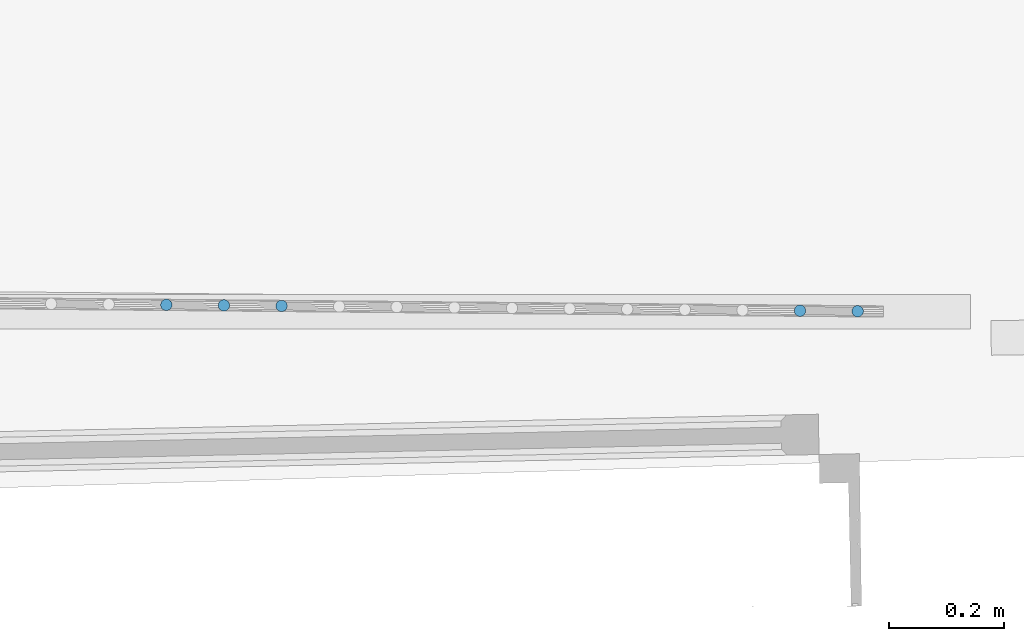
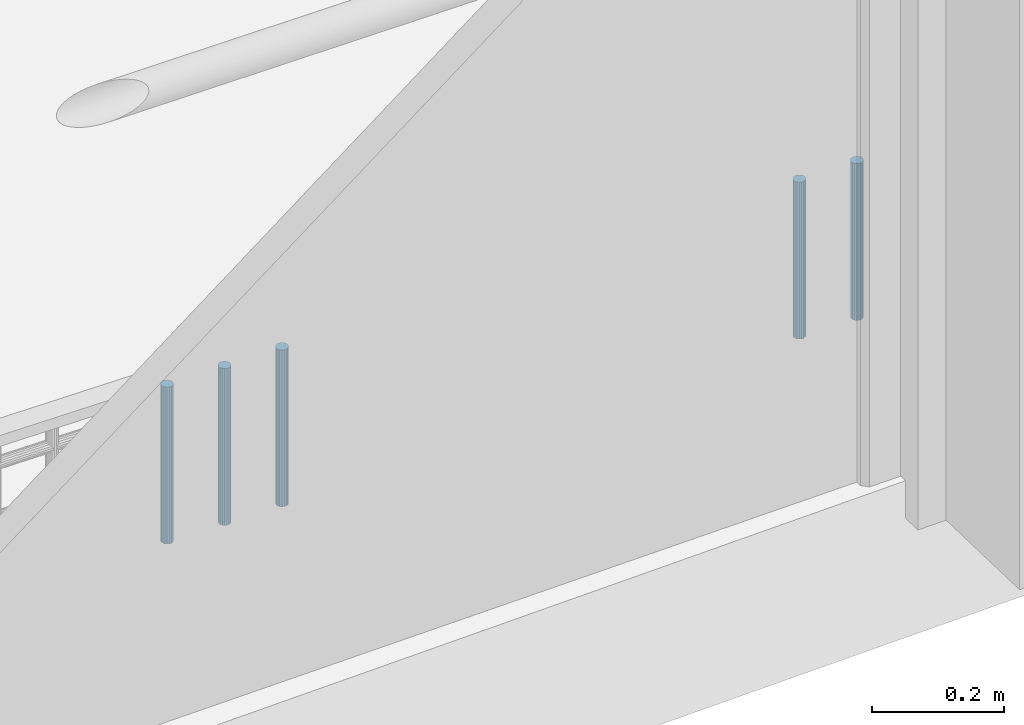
# One storey, part 24 of 66: 5 members, 1 element without a shape of its own.
"""IFC2X3 building model written with IfcOpenShell, lengths in centimetres."""

from ifc_helpers import new_model, entity, si_unit, converted_unit, direction, frame, origin, origin_with_axes, place, context, subcontext, project, spatial, faceted_brep, material, type_object, element, aggregate, save


model = new_model("IFC2X3")

# Units and contexts
model_context = context("Model", 3, precision=0.0001, world=origin(), true_north=direction((0.225632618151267, 0.974212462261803, 0.0)))
body_context = subcontext(model_context, "Body", "Model", "MODEL_VIEW")
ifc_project = project(units=[si_unit("LENGTHUNIT", "METRE", prefix="CENTI"), si_unit("AREAUNIT", "SQUARE_METRE", prefix="CENTI"), si_unit("VOLUMEUNIT", "CUBIC_METRE", prefix="CENTI"), converted_unit("PLANEANGLEUNIT", "DEGREE", entity("IfcRatioMeasure", 0.0174532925), si_unit("PLANEANGLEUNIT", "RADIAN"), dimensions=[0, 0, 0, 0, 0, 0, 0])], contexts=[model_context])

# Site, building, storey
site_placement = place(None, origin_with_axes())
site = spatial("IfcSite", under=ifc_project, at=site_placement, Name="Default Site", CompositionType="ELEMENT")
building_placement = place(site_placement, origin_with_axes())
building = spatial("IfcBuilding", under=site, at=building_placement, Name="Default Building", CompositionType="ELEMENT")
storey_placement = place(building_placement, frame((0.0, 0.0, 477.795358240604), z_axis=(0.0, 0.0, 1.0), x_axis=(1.0, 0.0, 0.0)))
storey = spatial("IfcBuildingStorey", under=building, at=storey_placement, Name="Niveau 1", CompositionType="ELEMENT", Elevation=477.795358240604)

# Assembly, members
building_element_proxy_type = type_object("IfcBuildingElementProxyType", Name="Type Object", PredefinedType="NOTDEFINED")
assembly_placement = place(storey_placement, frame((1081.09889200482, -848.13, 9.99999999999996), z_axis=(0.0, 0.0, 1.0), x_axis=(-0.999957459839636, 0.00922380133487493, 0.0)))
assembly = element("IfcElementAssembly", 1, at=assembly_placement, inside=storey, type_object=building_element_proxy_type, Name="Panneau 1702007", ObjectType="Precast panel", PredefinedType="USERDEFINED")
ifc_material = material(Name="Aluminium satiné")
member_1_placement = place(assembly_placement, frame((7.4396923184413, 0.342020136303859, 31.0000002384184), z_axis=(0.0, 0.0, 1.0), x_axis=(0.499998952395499, -0.866026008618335, 0.0)))
member_1 = element("IfcMember", 2, at=member_1_placement, material=ifc_material, Name="4294967039", context=body_context, shape_type="Brep", body=[
    faceted_brep([(-1.02418074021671e-12, -4.8988590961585e-13, 3.27515792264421e-13), (-0.347296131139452, -5.37070388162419e-13, 3.27515792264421e-13), (-0.673647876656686, -0.118782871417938, 3.27515792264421e-13), (-0.939692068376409, -0.342020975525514, 3.27515792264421e-13), (-1.1133397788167, -0.642788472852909, 3.27515792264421e-13), (-1.1736469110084, -0.984809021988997, 3.27515792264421e-13), (-1.11333900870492, -1.32682889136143, 3.27515792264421e-13), (-0.939690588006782, -1.62759638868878, 3.27515792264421e-13), (-0.673645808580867, -1.85083373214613, 3.27515792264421e-13), (-0.347293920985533, -1.96961580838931, 3.27515792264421e-13), (2.58268114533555e-06, -1.96961516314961, 3.27515792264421e-13), (0.326354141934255, -1.85083261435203, 3.27515792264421e-13), (0.592398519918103, -1.62759418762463, 3.27515792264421e-13), (0.766046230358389, -1.32682669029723, 3.27515792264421e-13), (0.826353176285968, -0.984806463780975, 3.27515792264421e-13), (0.766045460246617, -0.64278627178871, 3.27515792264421e-13), (0.592396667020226, -0.342019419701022, 3.27515792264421e-13), (0.32635226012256, -0.118781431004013, 3.27515792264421e-13), (0.32635226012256, -0.118781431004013, -29.0000002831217), (0.592396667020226, -0.342019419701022, -29.0000002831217), (0.766045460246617, -0.64278627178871, -29.0000002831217), (0.826353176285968, -0.984806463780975, -29.0000002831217), (0.766046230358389, -1.32682669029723, -29.0000002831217), (0.592398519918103, -1.62759418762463, -29.0000002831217), (0.326354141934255, -1.85083261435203, -29.0000002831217), (2.58268114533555e-06, -1.96961516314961, -29.0000002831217), (-0.347293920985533, -1.96961580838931, -29.0000002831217), (-0.673645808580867, -1.85083373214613, -29.0000002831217), (-0.939690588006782, -1.62759638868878, -29.0000002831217), (-1.11333900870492, -1.32682889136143, -29.0000002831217), (-1.1736469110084, -0.984809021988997, -29.0000002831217), (-1.1133397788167, -0.642788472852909, -29.0000002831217), (-0.939692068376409, -0.342020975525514, -29.0000002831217), (-0.673647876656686, -0.118782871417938, -29.0000002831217), (-0.347296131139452, -5.37070388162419e-13, -29.0000002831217), (-1.02418074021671e-12, -4.8988590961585e-13, -29.0000002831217), (0.592397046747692, -0.342018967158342, 3.27515792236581e-13), (0.592397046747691, -0.342018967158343, -29.0000002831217), (0.326352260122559, -0.118781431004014, -29.0000002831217), (0.766045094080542, -0.642786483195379, 3.27515792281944e-13), (0.766045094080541, -0.64278648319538, -29.0000002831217), (0.592396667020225, -0.342019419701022, -29.0000002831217), (0.826353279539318, -0.984806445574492, 3.27515792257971e-13), (0.826353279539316, -0.984806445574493, -29.0000002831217), (0.766045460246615, -0.642786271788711, -29.0000002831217), (0.76604621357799, -1.32682668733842, 3.27515792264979e-13), (0.766046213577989, -1.32682668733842, -29.0000002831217), (0.826353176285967, -0.984806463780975, -29.0000002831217), (0.592398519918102, -1.62759418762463, 3.27515792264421e-13), (0.592398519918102, -1.62759418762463, -29.0000002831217), (0.326354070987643, -1.85083252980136, 3.27515792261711e-13), (0.326354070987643, -1.85083252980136, -29.0000002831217), (2.62872091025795e-06, -1.96961528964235, 3.27515792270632e-13), (2.6287209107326e-06, -1.96961528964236, -29.0000002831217), (0.326354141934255, -1.85083261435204, -29.0000002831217), (-0.347293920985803, -1.96961558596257, 3.27515792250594e-13), (-0.347293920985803, -1.96961558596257, -29.0000002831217), (-0.673645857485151, -1.85083386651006, 3.27515792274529e-13), (-0.673645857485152, -1.85083386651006, -29.0000002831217), (-0.939690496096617, -1.62759627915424, 3.27515792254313e-13), (-0.939690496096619, -1.62759627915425, -29.0000002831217), (-0.673645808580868, -1.85083373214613, -29.0000002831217), (-1.113339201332, -1.32682900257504, 3.27515792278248e-13), (-1.11333920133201, -1.32682900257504, -29.0000002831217), (-0.939690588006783, -1.62759638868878, -29.0000002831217), (-1.17364677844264, -0.984808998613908, 3.2751579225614e-13), (-1.17364677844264, -0.984808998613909, -29.0000002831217), (-1.11333900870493, -1.32682889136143, -29.0000002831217), (-1.11333988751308, -0.642788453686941, 3.27515792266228e-13), (-1.11333988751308, -0.642788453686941, -29.0000002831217), (-0.673647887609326, -0.118782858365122, 3.27515792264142e-13), (-0.673647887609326, -0.118782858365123, -29.0000002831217), (-0.939692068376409, -0.342020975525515, -29.0000002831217), (-0.347296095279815, -9.85237155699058e-08, 3.27515792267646e-13), (-0.347296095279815, -9.85237164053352e-08, -29.0000002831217), (-0.673647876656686, -0.118782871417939, -29.0000002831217), (-1.53892990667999e-12, 4.22811967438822e-07, 3.27515792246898e-13), (-1.53892990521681e-12, 4.22811966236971e-07, -29.0000002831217), (-0.347296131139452, -5.38272239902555e-13, -29.0000002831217), (0.32635205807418, -0.118781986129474, 3.27515792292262e-13), (0.326352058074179, -0.118781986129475, -29.0000002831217), (-1.02464817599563e-12, -4.91170183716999e-13, -29.0000002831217)], [[[0, 1, 2, 3, 4, 5, 6, 7, 8, 9, 10, 11, 12, 13, 14, 15, 16, 17]], [[18, 19, 20, 21, 22, 23, 24, 25, 26, 27, 28, 29, 30, 31, 32, 33, 34, 35]], [[17, 36, 37, 38]], [[16, 39, 40, 41]], [[15, 42, 43, 44]], [[14, 45, 46, 47]], [[13, 48, 49, 22]], [[12, 50, 51, 23]], [[11, 52, 53, 54]], [[10, 55, 56, 25]], [[9, 57, 58, 26]], [[8, 59, 60, 61]], [[7, 62, 63, 64]], [[6, 65, 66, 67]], [[5, 68, 69, 30]], [[4, 3, 32, 31]], [[3, 70, 71, 72]], [[2, 73, 74, 75]], [[1, 76, 77, 78]], [[0, 79, 80, 81]]]),
])
member_2_placement = place(assembly_placement, frame((17.4396932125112, 0.342020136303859, 31.0000002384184), z_axis=(0.0, 0.0, 1.0), x_axis=(0.500002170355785, -0.866024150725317, 0.0)))
member_2 = element("IfcMember", 3, at=member_2_placement, material=ifc_material, Name="4294967038", context=body_context, shape_type="Brep", body=[
    faceted_brep([(-1.32116539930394e-12, -6.18949336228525e-13, 4.21884749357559e-13), (-0.347296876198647, -5.4678483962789e-13, 4.21884749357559e-13), (-0.673648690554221, -0.118781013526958, 4.21884749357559e-13), (-0.939693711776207, -0.342018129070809, 4.21884749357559e-13), (-1.11334291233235, -0.642785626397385, 4.21884749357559e-13), (-1.17365112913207, -0.984805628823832, 4.21884749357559e-13), (-1.11334431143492, -1.32682539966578, 4.21884749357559e-13), (-0.939696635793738, -1.62759289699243, 4.21884749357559e-13), (-0.673653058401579, -1.85083187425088, 4.21884749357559e-13), (-0.347301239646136, -1.96961451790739, 4.21884749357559e-13), (-5.10851010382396e-06, -1.96961580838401, 4.21884749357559e-13), (0.326346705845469, -1.8508347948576, 4.21884749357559e-13), (0.592391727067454, -1.62759767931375, 4.21884749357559e-13), (0.766040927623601, -1.32683018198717, 4.21884749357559e-13), (0.826349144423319, -0.984810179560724, 4.21884749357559e-13), (0.766042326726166, -0.642790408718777, 4.21884749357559e-13), (0.592395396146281, -0.342021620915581, 4.21884749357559e-13), (0.326351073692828, -0.118783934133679, 4.21884749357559e-13), (0.326351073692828, -0.118783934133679, -29.0000002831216), (0.592395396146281, -0.342021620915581, -29.0000002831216), (0.766042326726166, -0.642790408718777, -29.0000002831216), (0.826349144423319, -0.984810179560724, -29.0000002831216), (0.766040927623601, -1.32683018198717, -29.0000002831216), (0.592391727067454, -1.62759767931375, -29.0000002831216), (0.326346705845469, -1.8508347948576, -29.0000002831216), (-5.10851010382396e-06, -1.96961580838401, -29.0000002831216), (-0.347301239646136, -1.96961451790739, -29.0000002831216), (-0.673653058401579, -1.85083187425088, -29.0000002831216), (-0.939696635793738, -1.62759289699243, -29.0000002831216), (-1.11334431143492, -1.32682539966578, -29.0000002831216), (-1.17365112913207, -0.984805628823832, -29.0000002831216), (-1.11334291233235, -0.642785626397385, -29.0000002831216), (-0.939693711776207, -0.342018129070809, -29.0000002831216), (-0.673648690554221, -0.118781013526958, -29.0000002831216), (-0.347296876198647, -5.4678483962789e-13, -29.0000002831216), (-1.32116539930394e-12, -6.18949336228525e-13, -29.0000002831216), (0.59239483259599, -0.34202229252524, 4.21884749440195e-13), (0.592394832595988, -0.342022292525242, -29.0000002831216), (0.326351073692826, -0.118783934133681, -29.0000002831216), (0.766043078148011, -0.642789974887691, 4.21884749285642e-13), (0.766043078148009, -0.642789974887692, -29.0000002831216), (0.592395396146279, -0.342021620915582, -29.0000002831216), (0.82634877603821, -0.984810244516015, 4.21884749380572e-13), (0.826348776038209, -0.984810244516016, -29.0000002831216), (0.766042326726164, -0.642790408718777, -29.0000002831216), (0.766040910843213, -1.32683017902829, 4.21884749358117e-13), (0.766040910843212, -1.32683017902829, -29.0000002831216), (0.826349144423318, -0.984810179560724, -29.0000002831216), (0.592391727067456, -1.62759767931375, 4.21884749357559e-13), (0.592391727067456, -1.62759767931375, -29.0000002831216), (0.326346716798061, -1.85083480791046, 4.21884749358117e-13), (0.326346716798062, -1.85083480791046, -29.0000002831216), (0.592391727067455, -1.62759767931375, -29.0000002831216), (-4.98057224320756e-06, -1.96961615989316, 4.21884749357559e-13), (-4.98057224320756e-06, -1.96961615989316, -29.0000002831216), (-0.347301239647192, -1.96961494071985, 4.21884749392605e-13), (-0.347301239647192, -1.96961494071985, -29.0000002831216), (-5.10851010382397e-06, -1.96961580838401, -29.0000002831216), (-0.673652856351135, -1.85083131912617, 4.21884749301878e-13), (-0.673652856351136, -1.85083131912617, -29.0000002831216), (-0.347301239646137, -1.96961451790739, -29.0000002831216), (-0.939697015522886, -1.6275933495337, 4.21884749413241e-13), (-0.939697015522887, -1.6275933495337, -29.0000002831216), (-0.67365305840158, -1.85083187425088, -29.0000002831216), (-1.11334394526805, -1.32682518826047, 4.21884749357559e-13), (-1.11334394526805, -1.32682518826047, -29.0000002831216), (-1.17365076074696, -0.984805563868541, 4.21884749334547e-13), (-1.17365076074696, -0.984805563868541, -29.0000002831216), (-1.11334289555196, -0.642785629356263, 4.21884749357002e-13), (-1.11334289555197, -0.642785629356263, -29.0000002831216), (-1.17365112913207, -0.984805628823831, -29.0000002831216), (-0.673648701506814, -0.1187810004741, 4.21884749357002e-13), (-0.673648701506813, -0.118781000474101, -29.0000002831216), (-0.939693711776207, -0.34201812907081, -29.0000002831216), (-0.347297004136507, 3.51508602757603e-07, 4.21884749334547e-13), (-0.347297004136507, 3.51508601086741e-07, -29.0000002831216), (-0.67364869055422, -0.11878101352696, -29.0000002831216), (-3.48889081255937e-12, -8.67666569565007e-07, 4.21884749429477e-13), (-3.48889081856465e-12, -8.6766657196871e-07, -29.0000002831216), (-0.347296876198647, -5.49188543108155e-13, -29.0000002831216), (0.326351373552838, -0.118783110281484, 4.21884749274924e-13), (0.326351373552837, -0.118783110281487, -29.0000002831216), (-1.32210028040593e-12, -6.21517880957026e-13, -29.0000002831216)], [[[0, 1, 2, 3, 4, 5, 6, 7, 8, 9, 10, 11, 12, 13, 14, 15, 16, 17]], [[18, 19, 20, 21, 22, 23, 24, 25, 26, 27, 28, 29, 30, 31, 32, 33, 34, 35]], [[17, 36, 37, 38]], [[16, 39, 40, 41]], [[15, 42, 43, 44]], [[14, 45, 46, 47]], [[13, 48, 49, 22]], [[12, 50, 51, 52]], [[11, 53, 54, 24]], [[10, 55, 56, 57]], [[9, 58, 59, 60]], [[8, 61, 62, 63]], [[7, 64, 65, 28]], [[6, 66, 67, 29]], [[5, 68, 69, 70]], [[4, 3, 32, 31]], [[3, 71, 72, 73]], [[2, 74, 75, 76]], [[1, 77, 78, 79]], [[0, 80, 81, 82]]]),
])
member_3_placement = place(assembly_placement, frame((107.43969678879, 0.342020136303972, 31.0000002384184), z_axis=(0.0, 0.0, 1.0), x_axis=(0.500008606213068, -0.866020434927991, 0.0)))
member_3 = element("IfcMember", 4, at=member_3_placement, material=ifc_material, Name="4294967029", context=body_context, shape_type="Brep", body=[
    faceted_brep([(-1.0325074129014e-12, -4.21884749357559e-13, 4.32986979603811e-13), (-0.347298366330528, -5.6621374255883e-13, 4.32986979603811e-13), (-0.673648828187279, -0.118774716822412, 4.32986979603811e-13), (-0.939699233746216, -0.342016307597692, 4.32986979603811e-13), (-1.11334843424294, -0.642778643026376, 4.32986979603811e-13), (-1.17366291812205, -0.984804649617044, 4.32986979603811e-13), (-1.11335640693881, -1.3268209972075, 4.32986979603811e-13), (-0.93971320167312, -1.6275936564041, 4.32986979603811e-13), (-0.673671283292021, -1.85083461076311, 4.32986979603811e-13), (-0.347320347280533, -1.96961967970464, 4.32986979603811e-13), (-2.19809510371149e-05, -1.96961967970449, 4.32986979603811e-13), (0.326328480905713, -1.85084496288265, 4.32986979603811e-13), (0.592378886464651, -1.62760337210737, 4.32986979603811e-13), (0.766028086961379, -1.32684103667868, 4.32986979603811e-13), (0.826342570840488, -0.984815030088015, 4.32986979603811e-13), (0.766036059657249, -0.642798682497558, 4.32986979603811e-13), (0.592392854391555, -0.342026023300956, 4.32986979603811e-13), (0.326350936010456, -0.118785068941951, 4.32986979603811e-13), (0.326350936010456, -0.118785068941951, -29.0000002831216), (0.592392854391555, -0.342026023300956, -29.0000002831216), (0.766036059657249, -0.642798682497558, -29.0000002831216), (0.826342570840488, -0.984815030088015, -29.0000002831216), (0.766028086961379, -1.32684103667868, -29.0000002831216), (0.592378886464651, -1.62760337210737, -29.0000002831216), (0.326328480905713, -1.85084496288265, -29.0000002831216), (-2.19809510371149e-05, -1.96961967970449, -29.0000002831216), (-0.347320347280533, -1.96961967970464, -29.0000002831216), (-0.673671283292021, -1.85083461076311, -29.0000002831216), (-0.93971320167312, -1.6275936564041, -29.0000002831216), (-1.11335640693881, -1.3268209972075, -29.0000002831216), (-1.17366291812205, -0.984804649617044, -29.0000002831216), (-1.11334843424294, -0.642778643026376, -29.0000002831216), (-0.939699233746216, -0.342016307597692, -29.0000002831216), (-0.673648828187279, -0.118774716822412, -29.0000002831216), (-0.347298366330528, -5.6621374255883e-13, -29.0000002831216), (-1.0325074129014e-12, -4.21884749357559e-13, -29.0000002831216), (0.592393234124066, -0.342025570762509, 4.32986979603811e-13), (0.592393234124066, -0.342025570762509, -29.0000002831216), (0.766039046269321, -0.642796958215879, 4.32986979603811e-13), (0.766039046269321, -0.642796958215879, -29.0000002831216), (0.826339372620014, -0.98481559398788, 4.32986979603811e-13), (0.826339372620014, -0.98481559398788, -29.0000002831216), (0.766030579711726, -1.32684147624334, 4.32986979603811e-13), (0.766030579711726, -1.32684147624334, -29.0000002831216), (0.592378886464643, -1.62760337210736, 4.32986979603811e-13), (0.592378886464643, -1.62760337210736, -29.0000002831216), (0.326326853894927, -1.85084302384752, 4.32986979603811e-13), (0.326326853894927, -1.85084302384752, -29.0000002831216), (-2.08702530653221e-05, -1.96962273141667, 4.32986979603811e-13), (-2.08702530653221e-05, -1.96962273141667, -29.0000002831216), (-0.347320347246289, -1.96961623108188, 4.32986979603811e-13), (-0.347320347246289, -1.96961623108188, -29.0000002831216), (-0.673671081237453, -1.8508340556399, 4.32986979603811e-13), (-0.673671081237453, -1.8508340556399, -29.0000002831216), (-0.939713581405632, -1.62759410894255, 4.32986979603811e-13), (-0.939713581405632, -1.62759410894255, -29.0000002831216), (-1.11335939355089, -1.32682272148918, 4.32986979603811e-13), (-1.11335939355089, -1.32682272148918, -29.0000002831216), (-1.17365971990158, -0.984804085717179, 4.32986979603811e-13), (-1.17365971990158, -0.984804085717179, -29.0000002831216), (-1.11335092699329, -0.642778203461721, 4.32986979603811e-13), (-1.11335092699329, -0.642778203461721, -29.0000002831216), (-0.939699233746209, -0.342016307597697, 4.32986979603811e-13), (-0.939699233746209, -0.342016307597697, -29.0000002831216), (-0.673647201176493, -0.118776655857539, 4.32986979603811e-13), (-0.673647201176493, -0.118776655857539, -29.0000002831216), (-0.3472994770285, 3.05171160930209e-06, 4.32986979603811e-13), (-0.3472994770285, 3.05171160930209e-06, -29.0000002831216), (-3.52768332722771e-11, -3.4486231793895e-06, 4.32986979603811e-13), (-3.52768332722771e-11, -3.4486231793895e-06, -29.0000002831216), (0.326350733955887, -0.118785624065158, 4.32986979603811e-13), (0.326350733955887, -0.118785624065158, -29.0000002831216)], [[[0, 1, 2, 3, 4, 5, 6, 7, 8, 9, 10, 11, 12, 13, 14, 15, 16, 17]], [[18, 19, 20, 21, 22, 23, 24, 25, 26, 27, 28, 29, 30, 31, 32, 33, 34, 35]], [[17, 36, 37, 18]], [[16, 38, 39, 19]], [[15, 40, 41, 20]], [[14, 42, 43, 21]], [[13, 44, 45, 22]], [[12, 46, 47, 23]], [[11, 48, 49, 24]], [[10, 50, 51, 25]], [[9, 52, 53, 26]], [[8, 54, 55, 27]], [[7, 56, 57, 28]], [[6, 58, 59, 29]], [[5, 60, 61, 30]], [[4, 62, 63, 31]], [[3, 64, 65, 32]], [[2, 66, 67, 33]], [[1, 68, 69, 34]], [[0, 70, 71, 35]]]),
])
member_4_placement = place(assembly_placement, frame((117.439687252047, 0.342020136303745, 31.0000002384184), z_axis=(0.0, 0.0, 1.0), x_axis=(0.499982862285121, -0.866035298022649, 0.0)))
member_4 = element("IfcMember", 5, at=member_4_placement, material=ifc_material, Name="4294967028", context=body_context, shape_type="Brep", body=[
    faceted_brep([(-1.15463194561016e-12, -5.55111512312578e-13, 4.21884749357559e-13), (-0.347292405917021, -5.10702591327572e-13, 4.21884749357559e-13), (-0.673645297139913, -0.118794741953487, 4.21884749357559e-13), (-0.939683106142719, -0.342033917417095, 4.21884749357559e-13), (-1.11332336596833, -0.642801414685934, 4.21884749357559e-13), (-1.17362768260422, -0.984829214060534, 4.21884749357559e-13), (-1.1133110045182, -1.32684376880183, 4.21884749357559e-13), (-0.93965885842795, -1.62761126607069, 4.21884749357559e-13), (-0.673610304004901, -1.85084431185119, 4.21884749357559e-13), (-0.34725583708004, -1.96961967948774, 4.21884749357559e-13), (4.25290960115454e-05, -1.96960935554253, 4.21884749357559e-13), (0.326389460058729, -1.85082493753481, 4.21884749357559e-13), (0.592433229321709, -1.62757543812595, 4.21884749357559e-13), (0.766073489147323, -1.32680794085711, 4.21884749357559e-13), (0.826371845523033, -0.984790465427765, 4.21884749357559e-13), (0.766061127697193, -0.642765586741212, 4.21884749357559e-13), (0.592403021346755, -0.342008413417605, 4.21884749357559e-13), (0.326354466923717, -0.118775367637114, 4.21884749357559e-13), (0.326354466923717, -0.118775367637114, -29.0000002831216), (0.592403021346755, -0.342008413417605, -29.0000002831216), (0.766061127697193, -0.642765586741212, -29.0000002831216), (0.826371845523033, -0.984790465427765, -29.0000002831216), (0.766073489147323, -1.32680794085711, -29.0000002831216), (0.592433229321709, -1.62757543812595, -29.0000002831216), (0.326389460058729, -1.85082493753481, -29.0000002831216), (4.25290960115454e-05, -1.96960935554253, -29.0000002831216), (-0.34725583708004, -1.96961967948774, -29.0000002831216), (-0.673610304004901, -1.85084431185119, -29.0000002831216), (-0.93965885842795, -1.62761126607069, -29.0000002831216), (-1.1133110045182, -1.32684376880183, -29.0000002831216), (-1.17362768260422, -0.984829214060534, -29.0000002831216), (-1.11332336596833, -0.642801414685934, -29.0000002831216), (-0.939683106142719, -0.342033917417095, -29.0000002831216), (-0.673645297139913, -0.118794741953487, -29.0000002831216), (-0.347292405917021, -5.10702591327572e-13, -29.0000002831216), (-1.15463194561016e-12, -5.55111512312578e-13, -29.0000002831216), (0.592403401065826, -0.342007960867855, 4.21884749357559e-13), (0.592403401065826, -0.342007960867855, -29.0000002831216), (0.766055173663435, -0.642769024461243, 4.21884749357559e-13), (0.766055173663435, -0.642769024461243, -29.0000002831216), (0.826376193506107, -0.984789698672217, 4.21884749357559e-13), (0.826376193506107, -0.984789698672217, -29.0000002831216), (0.766071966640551, -1.32680767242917, 4.21884749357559e-13), (0.766071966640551, -1.32680767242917, -29.0000002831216), (0.326387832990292, -1.85082299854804, 4.21884749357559e-13), (0.326387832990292, -1.85082299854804, -29.0000002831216), (4.36398847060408e-05, -1.96961240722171, 4.21884749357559e-13), (4.36398847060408e-05, -1.96961240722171, -29.0000002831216), (-0.347255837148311, -1.96961623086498, 4.21884749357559e-13), (-0.347255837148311, -1.96961623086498, -29.0000002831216), (-0.673610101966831, -1.85084375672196, 4.21884749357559e-13), (-0.673610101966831, -1.85084375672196, -29.0000002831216), (-0.939659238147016, -1.62761171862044, 4.21884749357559e-13), (-0.939659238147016, -1.62761171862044, -29.0000002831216), (-1.11331399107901, -1.32684549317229, 4.21884749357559e-13), (-1.11331399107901, -1.32684549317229, -29.0000002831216), (-1.17362448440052, -0.984828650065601, 4.21884749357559e-13), (-1.17362448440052, -0.984828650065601, -29.0000002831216), (-1.11332585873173, -0.642800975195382, 4.21884749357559e-13), (-1.11332585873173, -0.642800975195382, -29.0000002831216), (-0.673646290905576, -0.118793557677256, 4.21884749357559e-13), (-0.673646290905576, -0.118793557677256, -29.0000002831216), (-0.347290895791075, -4.14878229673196e-06, 4.21884749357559e-13), (-0.347290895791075, -4.14878229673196e-06, -29.0000002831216), (-1.37260218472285e-10, 6.87520394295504e-06, 4.21884749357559e-13), (-1.37260218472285e-10, 6.87520394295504e-06, -29.0000002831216), (0.326354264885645, -0.118775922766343, 4.21884749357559e-13), (0.326354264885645, -0.118775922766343, -29.0000002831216)], [[[0, 1, 2, 3, 4, 5, 6, 7, 8, 9, 10, 11, 12, 13, 14, 15, 16, 17]], [[18, 19, 20, 21, 22, 23, 24, 25, 26, 27, 28, 29, 30, 31, 32, 33, 34, 35]], [[17, 36, 37, 18]], [[16, 38, 39, 19]], [[15, 40, 41, 20]], [[14, 42, 43, 21]], [[13, 12, 23, 22]], [[12, 44, 45, 23]], [[11, 46, 47, 24]], [[10, 48, 49, 25]], [[9, 50, 51, 26]], [[8, 52, 53, 27]], [[7, 54, 55, 28]], [[6, 56, 57, 29]], [[5, 58, 59, 30]], [[4, 3, 32, 31]], [[3, 60, 61, 32]], [[2, 62, 63, 33]], [[1, 64, 65, 34]], [[0, 66, 67, 35]]]),
])
member_5_placement = place(assembly_placement, frame((127.439689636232, 0.342020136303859, 31.0000002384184), z_axis=(0.0, 0.0, 1.0), x_axis=(0.499982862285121, -0.866035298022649, 0.0)))
member_5 = element("IfcMember", 6, at=member_5_placement, material=ifc_material, Name="4294967027", context=body_context, shape_type="Brep", body=[
    faceted_brep([(-1.21014309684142e-12, -4.21884749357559e-13, 4.21884749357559e-13), (-0.347292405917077, -3.77475828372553e-13, 4.21884749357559e-13), (-0.673645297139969, -0.118794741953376, 4.21884749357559e-13), (-0.939683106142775, -0.342033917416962, 4.21884749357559e-13), (-1.11332932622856, -0.642811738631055, 4.21884749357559e-13), (-1.17362768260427, -0.984829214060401, 4.21884749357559e-13), (-1.11331100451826, -1.3268437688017, 4.21884749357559e-13), (-0.939658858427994, -1.62761126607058, 4.21884749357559e-13), (-0.673610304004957, -1.85084431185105, 4.21884749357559e-13), (-0.347255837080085, -1.96961967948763, 4.21884749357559e-13), (4.25290959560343e-05, -1.9696093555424, 4.21884749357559e-13), (0.326389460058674, -1.85082493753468, 4.21884749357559e-13), (0.59242726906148, -1.62758576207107, 4.21884749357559e-13), (0.766073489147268, -1.32680794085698, 4.21884749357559e-13), (0.826371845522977, -0.984790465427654, 4.21884749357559e-13), (0.766061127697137, -0.642765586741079, 4.21884749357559e-13), (0.592403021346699, -0.342008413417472, 4.21884749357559e-13), (0.326354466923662, -0.118775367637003, 4.21884749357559e-13), (0.326354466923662, -0.118775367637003, -29.0000002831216), (0.592403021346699, -0.342008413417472, -29.0000002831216), (0.766061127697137, -0.642765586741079, -29.0000002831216), (0.826371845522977, -0.984790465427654, -29.0000002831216), (0.766073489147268, -1.32680794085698, -29.0000002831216), (0.59242726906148, -1.62758576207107, -29.0000002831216), (0.326389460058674, -1.85082493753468, -29.0000002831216), (4.25290959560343e-05, -1.9696093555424, -29.0000002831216), (-0.347255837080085, -1.96961967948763, -29.0000002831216), (-0.673610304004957, -1.85084431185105, -29.0000002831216), (-0.939658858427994, -1.62761126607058, -29.0000002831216), (-1.11331100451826, -1.3268437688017, -29.0000002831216), (-1.17362768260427, -0.984829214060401, -29.0000002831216), (-1.11332932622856, -0.642811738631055, -29.0000002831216), (-0.939683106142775, -0.342033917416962, -29.0000002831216), (-0.673645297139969, -0.118794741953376, -29.0000002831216), (-0.347292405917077, -3.77475828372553e-13, -29.0000002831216), (-1.21014309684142e-12, -4.21884749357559e-13, -29.0000002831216), (0.59240340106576, -0.342007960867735, 4.21884749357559e-13), (0.59240340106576, -0.342007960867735, -29.0000002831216), (0.766055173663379, -0.642769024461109, 4.21884749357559e-13), (0.766055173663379, -0.642769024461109, -29.0000002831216), (0.826376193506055, -0.984789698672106, 4.21884749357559e-13), (0.826376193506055, -0.984789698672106, -29.0000002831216), (0.766071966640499, -1.32680767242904, 4.21884749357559e-13), (0.766071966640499, -1.32680767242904, -29.0000002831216), (0.592427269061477, -1.62758576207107, 4.21884749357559e-13), (0.592427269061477, -1.62758576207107, -29.0000002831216), (0.326390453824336, -1.85082612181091, 4.21884749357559e-13), (0.326390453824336, -1.85082612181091, -29.0000002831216), (4.36398846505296e-05, -1.96961240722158, 4.21884749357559e-13), (4.36398846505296e-05, -1.96961240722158, -29.0000002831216), (-0.347255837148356, -1.96961623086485, 4.21884749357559e-13), (-0.347255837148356, -1.96961623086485, -29.0000002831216), (-0.673610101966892, -1.85084375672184, 4.21884749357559e-13), (-0.673610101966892, -1.85084375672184, -29.0000002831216), (-0.939659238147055, -1.62761171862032, 4.21884749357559e-13), (-0.939659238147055, -1.62761171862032, -29.0000002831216), (-1.11331399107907, -1.32684549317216, 4.21884749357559e-13), (-1.11331399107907, -1.32684549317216, -29.0000002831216), (-1.17362448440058, -0.984828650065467, 4.21884749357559e-13), (-1.17362448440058, -0.984828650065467, -29.0000002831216), (-1.11332780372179, -0.642812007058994, 4.21884749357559e-13), (-1.11332780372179, -0.642812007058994, -29.0000002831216), (-0.939683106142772, -0.342033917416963, 4.21884749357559e-13), (-0.939683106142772, -0.342033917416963, -29.0000002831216), (-0.673646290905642, -0.118793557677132, 4.21884749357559e-13), (-0.673646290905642, -0.118793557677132, -29.0000002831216), (-0.347290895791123, -4.14878218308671e-06, 4.21884749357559e-13), (-0.347290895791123, -4.14878218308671e-06, -29.0000002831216), (-1.37315729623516e-10, 6.87520407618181e-06, 4.21884749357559e-13), (-1.37315729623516e-10, 6.87520407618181e-06, -29.0000002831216), (0.326354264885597, -0.118775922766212, 4.21884749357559e-13), (0.326354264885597, -0.118775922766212, -29.0000002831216)], [[[0, 1, 2, 3, 4, 5, 6, 7, 8, 9, 10, 11, 12, 13, 14, 15, 16, 17]], [[18, 19, 20, 21, 22, 23, 24, 25, 26, 27, 28, 29, 30, 31, 32, 33, 34, 35]], [[17, 36, 37, 18]], [[16, 38, 39, 19]], [[15, 40, 41, 20]], [[14, 42, 43, 21]], [[13, 44, 45, 22]], [[12, 46, 47, 23]], [[11, 48, 49, 24]], [[10, 50, 51, 25]], [[9, 52, 53, 26]], [[8, 54, 55, 27]], [[7, 56, 57, 28]], [[6, 58, 59, 29]], [[5, 60, 61, 30]], [[4, 62, 63, 31]], [[3, 64, 65, 32]], [[2, 66, 67, 33]], [[1, 68, 69, 34]], [[0, 70, 71, 35]]]),
])
aggregate(assembly, [member_1, member_2, member_3, member_4, member_5])

save(model, "model.ifc")
